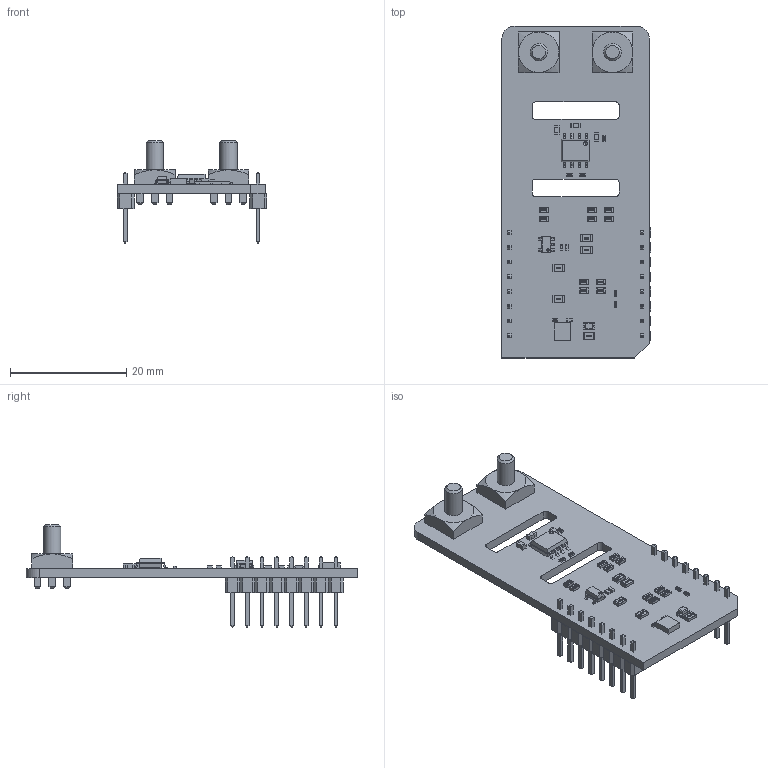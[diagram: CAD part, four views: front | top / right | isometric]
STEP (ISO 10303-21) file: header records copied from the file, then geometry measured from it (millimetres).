
FILE_DESCRIPTION(('Open CASCADE Model'),'2;1');
FILE_NAME('Open CASCADE Shape Model','2025-09-09T12:48:28',('Author'),( 'Open CASCADE'),'Open CASCADE STEP processor 7.5','Open CASCADE 7.5' ,'Unknown');
FILE_SCHEMA(('AUTOMOTIVE_DESIGN { 1 0 10303 214 1 1 1 1 }'));
Length unit declared in the file: millimetre
Products named in the file (54): PCB; Board; Open CASCADE STEP translator 7.5 1.1.1; R17; User Library-R_0603; R16; R15; R14; R13; R12; R11; R10; R9; CN2; STP_7461094_rev1; CN1; MBD1; Header 1x8; Free-Models; 1240637040; User_Library-PinHeaderX5-1_PinHeaderX5_Body_1; User_Library-PinHeaderX5-1_PinHeaderX5_Pins_1; JP1; User Library-R_0805; U1; 7432332512; Extruded; C1; User Library-SMD CAPACITOR0402; R2; User Library-R_0402; LD1; led_0805_green; R1; C2; User Library-SMD CAPACITOR0603; C3; C4; C5; C6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
Assembly tree (78 placements, depth 7):
  PCB
    Board
      Open CASCADE STEP translator 7.5 1.1.1
    R17
      User Library-R_0603
    R16
      User Library-R_0603
    R15
      User Library-R_0603
    R14
      User Library-R_0603
    R13
      User Library-R_0603
    R12
      User Library-R_0603
    R11
      User Library-R_0603
    R10
      User Library-R_0603
    R9
      User Library-R_0603
    CN2
      STP_7461094_rev1
    CN1
      STP_7461094_rev1
    MBD1
      Header 1x8  x2
        PCB
          Free-Models
            1240637040  x2
              User_Library-PinHeaderX5-1_PinHeaderX5_Body_1
              User_Library-PinHeaderX5-1_PinHeaderX5_Pins_1
    JP1
      User Library-R_0805
    U1
      7432332512
        Extruded
    C1
      User Library-SMD CAPACITOR0402
    R2
      User Library-R_0402
    LD1
      led_0805_green
    R1
      User Library-R_0805
    C2
      User Library-SMD CAPACITOR0603
    C3
      User Library-SMD CAPACITOR0402
    C4
      User Library-SMD CAPACITOR0402
    C5
      User Library-SMD CAPACITOR0603
    C6
      User Library-SMD CAPACITOR0603
    JP2
      User Library-R_0805
    JP3
      User Library-R_0805
    JP4
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Bounding box: 25.78 x 57.15 x 17.64 mm (x, y, z)
Volume: 3072.2 mm3; surface area: 5451 mm2
Topology: 105 solids, 105 shells, 3175 faces, 7919 edges, 5090 vertices
Faces by surface type: plane 2122, bspline 816, cylinder 171, sphere 56, cone 10
Full cylindrical faces by diameter (mm): 3 x2
Entity records: 37390 total; most frequent: CARTESIAN_POINT 11740, ORIENTED_EDGE 4294, DIRECTION 3809, EDGE_CURVE 2147, LINE 1683, VECTOR 1683, VERTEX_POINT 1362, AXIS2_PLACEMENT_3D 1063
